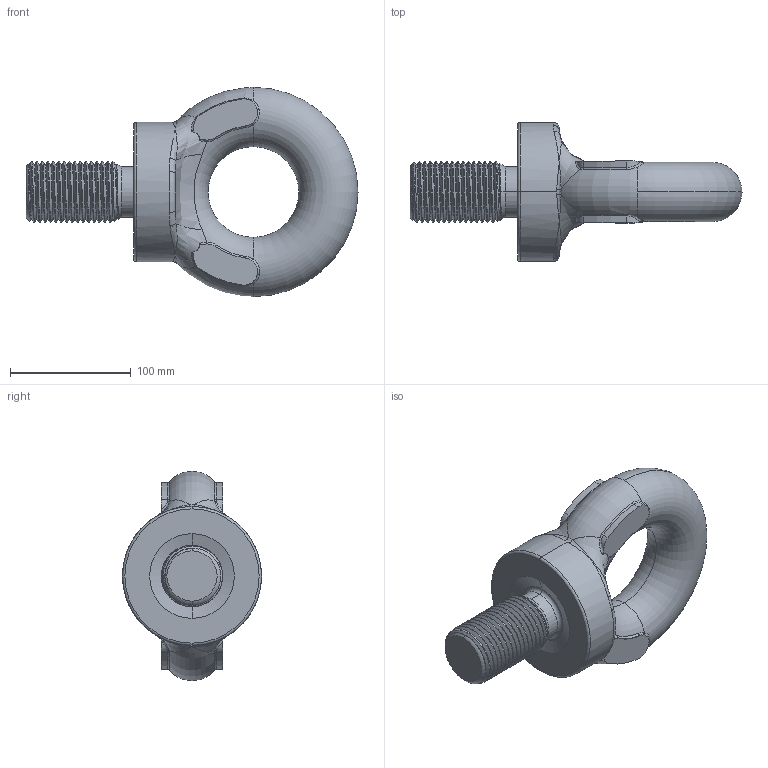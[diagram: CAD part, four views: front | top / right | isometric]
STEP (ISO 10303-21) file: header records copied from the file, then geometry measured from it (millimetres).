
FILE_DESCRIPTION (( 'STEP AP203' ), '1' );
FILE_NAME ('EBW2000.STEP', '2014-02-24T04:20:49', ( '' ), ( '' ), 'SwSTEP 2.0', 'SolidWorks 2012', '' );
FILE_SCHEMA (( 'CONFIG_CONTROL_DESIGN' ));
Length unit declared in the file: millimetre
Products named in the file (1): EBW2000
Bounding box: 274.5 x 115 x 173 mm (x, y, z)
Volume: 1220276.1 mm3; surface area: 102285.4 mm2
Topology: 1 solids, 1 shells, 147 faces, 388 edges, 234 vertices
Faces by surface type: cylinder 59, bspline 51, torus 24, plane 8, cone 5
Entity records: 12227 total; most frequent: CARTESIAN_POINT 9113, ORIENTED_EDGE 760, DIRECTION 515, EDGE_CURVE 380, VERTEX_POINT 234, AXIS2_PLACEMENT_3D 230, EDGE_LOOP 148, ADVANCED_FACE 147
